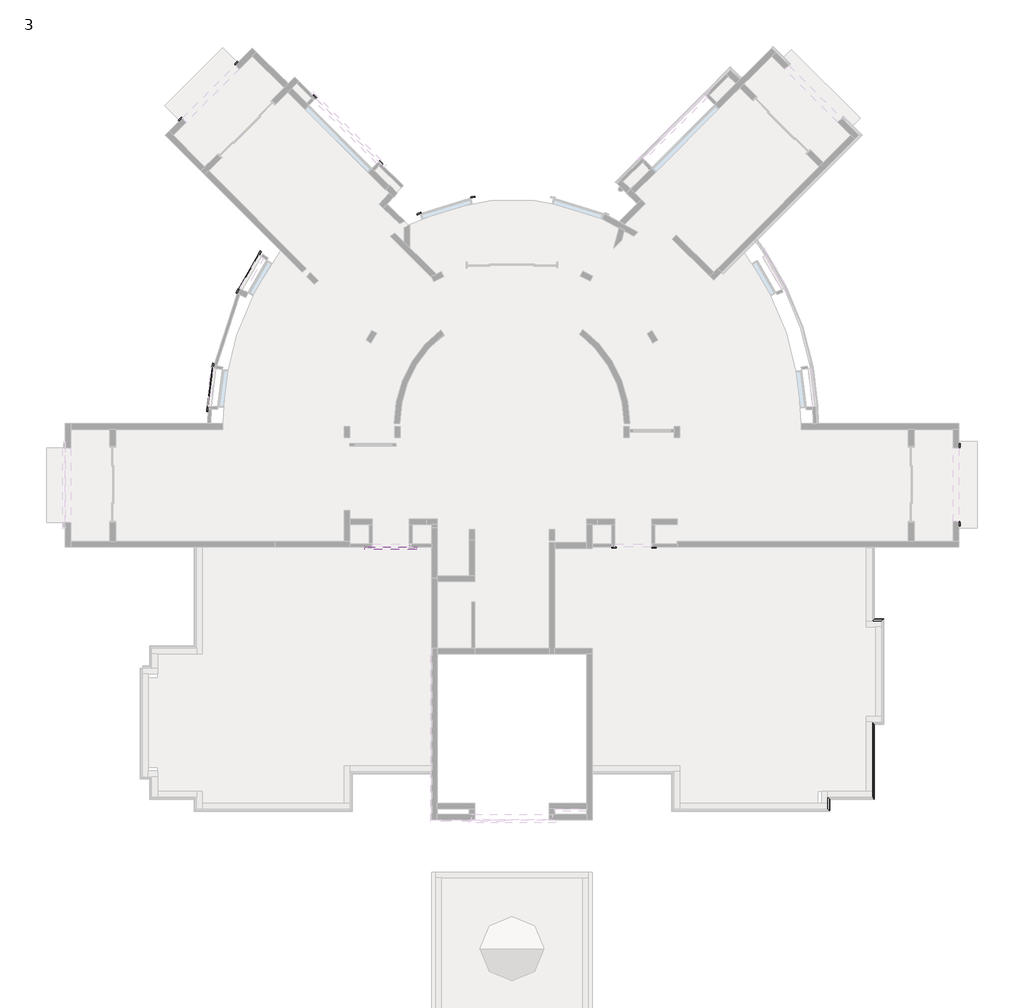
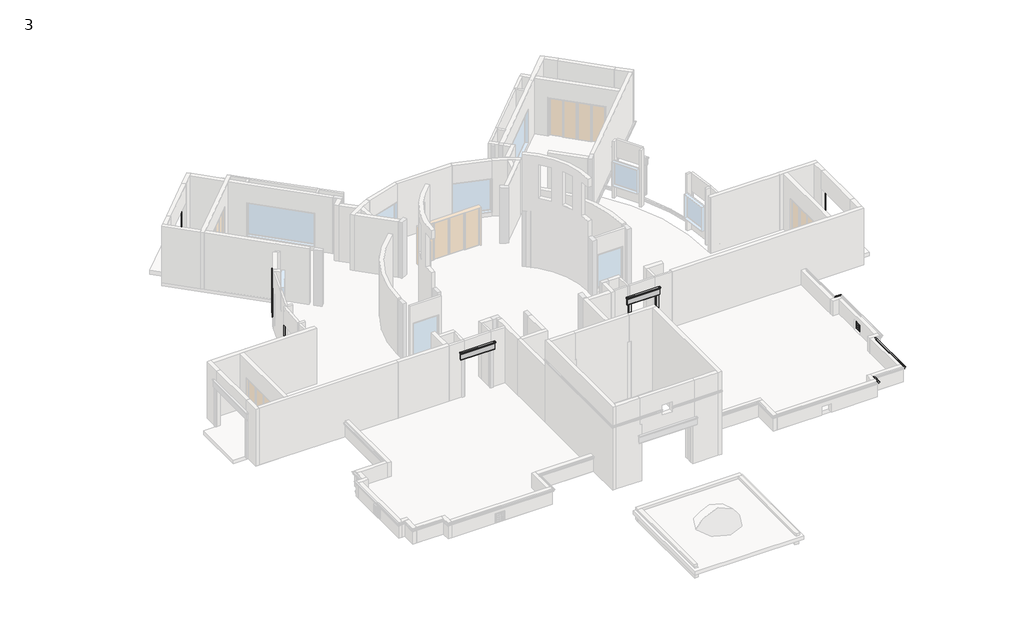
# One storey, part 9 of 12: 21 proxies.
"""IFC4 building model written with IfcOpenShell, lengths in millimetres."""

from ifc_helpers import new_model, si_unit, frame, origin, place, context, project, spatial, polyline, circle_curve, ellipse_curve, outline, extrude, transform, mapped, element, save
from ifc_brep_helpers import plane_surface, cylinder_surface, revolved_surface, advanced_brep
from components import generic_models_3ce4d895

model = new_model("IFC4")

# Units and contexts
model_context = context("Model", 3, world=origin())
ifc_project = project(units=[si_unit("LENGTHUNIT", "METRE", prefix="MILLI")], contexts=[model_context])

# Site, building, storey
site = spatial("IfcSite", under=ifc_project)
building = spatial("IfcBuilding", under=site)
storey = spatial("IfcBuildingStorey", under=building, Name="3", Elevation=3581.4)

# Proxies
placement = place(None, origin())
generic_models_shape = generic_models_3ce4d895(model_context)
element("IfcBuildingElementProxy", 1, Name="stone jhali : stone jhali", ObjectType="stone jhali : stone jhali", at=placement, inside=storey, context=model_context, shape_type="MappedRepresentation", body=[
    mapped(generic_models_shape, transform((6583.6550044, -9655.9181763, 3937.0), x_axis=(0.0, 1.0, 0.0), y_axis=(-1.0, 0.0, 0.0), z_axis=(0.0, 0.0, 1.0))),
])
element("IfcBuildingElementProxy", 2, Name="Cornice", ObjectType="Cornice", at=placement, inside=storey, context=model_context, shape_type="SweptSolid", body=[
    extrude(outline(polyline([(9861.3049094, -273.5693311), (9912.1049094, -273.5693311), (9912.1049094, -425.9693311), (9899.4049094, -425.9693311), (9899.4049094, -457.7193311), (9861.3049094, -457.7193311), (9861.3049094, -273.5693311)])), frame((0.0, 0.0, 3581.4), z_axis=(0.0, 0.0, 1.0), x_axis=(1.0, 0.0, 0.0)), (0.0, 0.0, 1.0), 2438.4),
])
element("IfcBuildingElementProxy", 3, Name="Cornice", ObjectType="Cornice", at=placement, inside=storey, context=model_context, shape_type="SweptSolid", body=[
    extrude(outline(polyline([(9861.3049094, -3651.7693311), (9861.3049094, -3467.6193311), (9899.4049094, -3467.6193311), (9899.4049094, -3499.3693311), (9912.1049094, -3499.3693311), (9912.1049094, -3651.7693311), (9861.3049094, -3651.7693311)])), frame((0.0, 0.0, 3581.4), z_axis=(0.0, 0.0, 1.0), x_axis=(1.0, 0.0, 0.0)), (0.0, 0.0, 1.0), 2447.8),
])
element("IfcBuildingElementProxy", 4, Name="Cornice", ObjectType="Cornice", at=placement, inside=storey, context=model_context, shape_type="SweptSolid", body=[
    extrude(outline(polyline([(-19565.0047027, 15310.3729855), (-19695.2184164, 15180.1592717), (-19722.1591848, 15207.1000401), (-19699.7085445, 15229.5506804), (-19708.6888006, 15238.5309365), (-19600.9257271, 15346.29401), (-19565.0047027, 15310.3729855)])), frame((0.0, 0.0, 3581.4), z_axis=(0.0, 0.0, 1.0), x_axis=(1.0, 0.0, 0.0)), (0.0, 0.0, 1.0), 2438.4),
])
element("IfcBuildingElementProxy", 5, Name="Cornice", ObjectType="Cornice", at=placement, inside=storey, context=model_context, shape_type="SweptSolid", body=[
    extrude(outline(polyline([(-21980.6935992, 12894.6840889), (-22016.6146237, 12930.6051134), (-21908.8515503, 13038.3681869), (-21899.8712941, 13029.3879307), (-21877.4206538, 13051.8385711), (-21850.4798855, 13024.8978027), (-21980.6935992, 12894.6840889)])), frame((0.0, 0.0, 3581.4), z_axis=(0.0, 0.0, 1.0), x_axis=(1.0, 0.0, 0.0)), (0.0, 0.0, 1.0), 2438.4),
])
element("IfcBuildingElementProxy", 6, Name="Cornice", ObjectType="Cornice", at=placement, inside=storey, context=model_context, shape_type="SweptSolid", body=[
    extrude(outline(polyline([(-16395.9597018, 13818.664308), (-16526.1734156, 13948.8780218), (-16499.2326472, 13975.8187901), (-16476.7820069, 13953.3681498), (-16467.8017508, 13962.3484059), (-16360.0386774, 13854.5853325), (-16395.9597018, 13818.664308)])), frame((0.0, 0.0, 3860.8), z_axis=(0.0, 0.0, 1.0), x_axis=(1.0, 0.0, 0.0)), (0.0, 0.0, 1.0), 2159.0),
])
element("IfcBuildingElementProxy", 7, Name="Cornice", ObjectType="Cornice", at=placement, inside=storey, context=model_context, shape_type="SweptSolid", body=[
    extrude(outline(polyline([(-13822.1309132, 11246.8070907), (-13786.2098888, 11282.7281152), (-13678.4468153, 11174.9650418), (-13687.4270714, 11165.9847856), (-13664.9764311, 11143.5341453), (-13691.9171995, 11116.593377), (-13822.1309132, 11246.8070907)])), frame((0.0, 0.0, 3835.4), z_axis=(0.0, 0.0, 1.0), x_axis=(1.0, 0.0, 0.0)), (0.0, 0.0, 1.0), 2184.4),
])
element("IfcBuildingElementProxy", 8, Name="Cornice", ObjectType="Cornice", at=placement, inside=storey, context=model_context, shape_type="SweptSolid", body=[
    extrude(outline(polyline([(-18625.2422279, 7572.7954932), (-18727.2981567, 7419.5120633), (-18759.0119698, 7440.6270831), (-18741.41612, 7467.0552606), (-18751.9873911, 7474.0936005), (-18667.527312, 7600.9488529), (-18625.2422279, 7572.7954932)])), frame((0.0, 0.0, 4495.8), z_axis=(0.0, 0.0, 1.0), x_axis=(1.0, 0.0, 0.0)), (0.0, 0.0, 1.0), 1524.0),
])
element("IfcBuildingElementProxy", 9, Name="Cornice", ObjectType="Cornice", at=placement, inside=storey, context=model_context, shape_type="SweptSolid", body=[
    extrude(outline(polyline([(-20564.0189962, 2998.5891327), (-20597.8457618, 2817.572635), (-20635.297451, 2824.5712761), (-20629.46525, 2855.7810171), (-20641.9491464, 2858.1138975), (-20613.9545818, 3007.9206542), (-20564.0189962, 2998.5891327)])), frame((0.0, 0.0, 4476.75), z_axis=(0.0, 0.0, 1.0), x_axis=(1.0, 0.0, 0.0)), (0.0, 0.0, 1.0), 1543.05),
])
element("IfcBuildingElementProxy", 10, Name="Cornice", ObjectType="Cornice", at=placement, inside=storey, context=model_context, shape_type="SweptSolid", body=[
    extrude(outline(polyline([(-20790.8754995, 1235.0551343), (-20798.5116903, 1051.0635283), (-20836.5789192, 1052.6434298), (-20835.2623345, 1084.3661205), (-20847.9514108, 1084.8927544), (-20841.6318046, 1237.1616697), (-20790.8754995, 1235.0551343)])), frame((0.0, 0.0, 4476.75), z_axis=(0.0, 0.0, 1.0), x_axis=(1.0, 0.0, 0.0)), (0.0, 0.0, 1.0), 1543.05),
])
element("IfcBuildingElementProxy", 11, Name="Cornice", ObjectType="Cornice", at=placement, inside=storey, context=model_context, shape_type="AdvancedBrep", body=[
    advanced_brep(
    [(-19615.2841774, 5849.4661485, 4311.65), (-19615.2841774, 5849.4661485, 4495.8), (-19649.721874, 5865.7650765, 4495.8), (-19649.721874, 5865.7650765, 4464.05), (-19661.2011062, 5871.1980525, 4464.05), (-19661.2011062, 5871.1980525, 4311.65), (-18638.8972495, 7550.4728354, 4311.65), (-18680.8207757, 7579.1618219, 4311.65), (-18680.8207757, 7579.1618219, 4464.05), (-18670.3398942, 7571.9895753, 4464.05), (-18670.3398942, 7571.9895753, 4495.8), (-18638.8972495, 7550.4728354, 4495.8)],
    [
        (0, 1),
        (1, 2),
        (2, 3),
        (3, 4),
        (4, 5),
        (5, 0),
        (6, 7),
        (7, 8),
        (8, 9),
        (9, 10),
        (10, 11),
        (11, 6),
        (11, 1, circle_curve(frame((-8388.5950904, 536.015621, 4495.8), z_axis=(0.0, 0.0, 1.0), x_axis=(-0.9038765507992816, 0.42779338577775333, 0.0)), 12420.6000002)),
        (0, 6, circle_curve(frame((-8388.5950904, 536.015621, 4311.65), z_axis=(0.0, 0.0, -1.0), x_axis=(-0.9038765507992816, 0.42779338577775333, 0.0)), 12420.6000002)),
        (10, 2, circle_curve(frame((-8388.5950904, 536.015621, 4495.8), z_axis=(0.0, 0.0, 1.0), x_axis=(-0.9038765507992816, 0.42779338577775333, 0.0)), 12458.7000002)),
        (9, 3, circle_curve(frame((-8388.5950904, 536.015621, 4464.05), z_axis=(0.0, 0.0, 1.0), x_axis=(-0.9038765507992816, 0.42779338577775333, 0.0)), 12458.7000002)),
        (8, 4, circle_curve(frame((-8388.5950904, 536.015621, 4464.05), z_axis=(0.0, 0.0, 1.0), x_axis=(-0.9038765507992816, 0.42779338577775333, 0.0)), 12471.4000002)),
        (7, 5, circle_curve(frame((-8388.5950904, 536.015621, 4311.65), z_axis=(0.0, 0.0, 1.0), x_axis=(-0.9038765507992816, 0.42779338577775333, 0.0)), 12471.4000002)),
    ],
    [
        plane_surface(frame((-8388.5950904, 536.015621, 4495.8), z_axis=(-0.42779338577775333, -0.9038765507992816, 0.0), x_axis=(-0.9038765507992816, 0.42779338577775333, 0.0))),
        plane_surface(frame((-8388.5950904, 536.015621, 4495.8), z_axis=(0.5647438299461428, 0.8252662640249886, 0.0), x_axis=(-0.8252662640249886, 0.5647438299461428, 0.0))),
        revolved_surface(polyline([(-19615.284177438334, 5849.466148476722, 4311.65), (-19615.284177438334, 5849.466148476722, 4495.8)]), (-8388.5950904, 536.015621, 4495.8), (0.0, 0.0, -1.0)),
        plane_surface(frame((-8388.5950904, 536.015621, 4495.8), z_axis=(0.0, 0.0, 1.0), x_axis=(-0.9038765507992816, 0.42779338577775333, 0.0))),
        cylinder_surface(frame((-8388.5950904, 536.015621, 4495.8), z_axis=(0.0, 0.0, -1.0), x_axis=(-0.9038765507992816, 0.42779338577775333, 0.0)), 12458.7000002),
        plane_surface(frame((-8388.5950904, 536.015621, 4464.05), z_axis=(0.0, 0.0, 1.0), x_axis=(-0.9038765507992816, 0.42779338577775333, 0.0))),
        cylinder_surface(frame((-8388.5950904, 536.015621, 4495.8), z_axis=(0.0, 0.0, -1.0), x_axis=(-0.9038765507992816, 0.42779338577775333, 0.0)), 12471.4000002),
        plane_surface(frame((-8388.5950904, 536.015621, 4311.65), z_axis=(0.0, 0.0, -1.0), x_axis=(-0.9038765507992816, 0.42779338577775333, 0.0))),
    ],
    [
        (0, [[1, 2, 3, 4, 5, 6]]),
        (1, [[7, 8, 9, 10, 11, 12]]),
        (2, [[13, -1, 14, -12]]),
        (3, [[15, -2, -13, -11]]),
        (4, [[16, -3, -15, -10]]),
        (5, [[17, -4, -16, -9]]),
        (6, [[18, -5, -17, -8]]),
        (7, [[-14, -6, -18, -7]]),
    ],
),
])
element("IfcBuildingElementProxy", 12, Name="Cornice", ObjectType="Cornice", at=placement, inside=storey, context=model_context, shape_type="SweptSolid", body=[
    extrude(outline(polyline([(-9892.3468074, 9786.7203377), (-10073.4973311, 9753.6188232), (-10080.3459203, 9791.0982419), (-10049.1130714, 9796.8053996), (-10051.3959344, 9809.2985391), (-9901.4782597, 9836.692896), (-9892.3468074, 9786.7203377)])), frame((0.0, 0.0, 3733.8), z_axis=(0.0, 0.0, 1.0), x_axis=(1.0, 0.0, 0.0)), (0.0, 0.0, 1.0), 2286.0),
])
element("IfcBuildingElementProxy", 13, Name="Cornice", ObjectType="Cornice", at=placement, inside=storey, context=model_context, shape_type="SweptSolid", body=[
    extrude(outline(polyline([(-12093.7697079, 9144.8565022), (-12261.4644605, 9068.7664736), (-12277.2072251, 9103.4619397), (-12248.2943367, 9116.5809101), (-12253.5419249, 9128.1460655), (-12114.7600606, 9191.1171236), (-12093.7697079, 9144.8565022)])), frame((0.0, 0.0, 3733.8), z_axis=(0.0, 0.0, 1.0), x_axis=(1.0, 0.0, 0.0)), (0.0, 0.0, 1.0), 2260.6),
])
element("IfcBuildingElementProxy", 14, Name="Cornice", ObjectType="Cornice", at=placement, inside=storey, context=model_context, shape_type="SweptSolid", body=[
    extrude(outline(polyline([(-19537.0846517, 6014.7377429), (-19615.8452259, 5848.2805579), (-19650.2846435, 5864.5758491), (-19636.7052342, 5893.2753637), (-19648.18504, 5898.7071275), (-19583.0038752, 6036.4647978), (-19537.0846517, 6014.7377429)])), frame((0.0, 0.0, 4495.8), z_axis=(0.0, 0.0, 1.0), x_axis=(1.0, 0.0, 0.0)), (0.0, 0.0, 1.0), 1524.0),
])
element("IfcBuildingElementProxy", 15, Name="Cornice", ObjectType="Cornice", at=placement, inside=storey, context=model_context, shape_type="SweptSolid", body=[
    extrude(outline(polyline([(-2489.4450906, -4496.3193311), (-2489.4450906, -4547.1193311), (-2641.8450906, -4547.1193311), (-2641.8450906, -4534.4193311), (-2673.5950906, -4534.4193311), (-2673.5950906, -4496.3193311), (-2489.4450906, -4496.3193311)])), frame((0.0, 0.0, 3581.4), z_axis=(0.0, 0.0, 1.0), x_axis=(1.0, 0.0, 0.0)), (0.0, 0.0, 1.0), 2438.4),
])
element("IfcBuildingElementProxy", 16, Name="Cornice", ObjectType="Cornice", at=placement, inside=storey, context=model_context, shape_type="SweptSolid", body=[
    extrude(outline(polyline([(-4127.7450906, -4496.3193311), (-4127.7450906, -4547.1193311), (-4280.1450906, -4547.1193311), (-4280.1450906, -4534.4193311), (-4311.8950906, -4534.4193311), (-4311.8950906, -4496.3193311), (-4127.7450906, -4496.3193311)])), frame((0.0, 0.0, 3581.4), z_axis=(0.0, 0.0, 1.0), x_axis=(1.0, 0.0, 0.0)), (0.0, 0.0, 1.0), 2438.4),
])
element("IfcBuildingElementProxy", 17, Name="Cornice", ObjectType="Cornice", at=placement, inside=storey, context=model_context, shape_type="AdvancedBrep", body=[
    advanced_brep(
    [(-20799.0856878, 1037.0420642, 4476.75), (-20849.8443405, 1039.0912521, 4476.75), (-20849.8443405, 1039.0912521, 4324.35), (-20837.1546773, 1038.5789551, 4324.35), (-20837.1546773, 1038.5789551, 4292.6), (-20799.0856878, 1037.0420642, 4292.6), (-20564.1492469, 2991.0482778, 4476.75), (-20564.1492469, 2991.0482778, 4292.6), (-20601.4975726, 2998.5790529, 4292.6), (-20601.4975726, 2998.5790529, 4324.35), (-20613.9470144, 3001.0893112, 4324.35), (-20613.9470144, 3001.0893112, 4476.75)],
    [
        (0, 1),
        (1, 2),
        (2, 3),
        (3, 4),
        (4, 5),
        (5, 0),
        (6, 7),
        (7, 8),
        (8, 9),
        (9, 10),
        (10, 11),
        (11, 6),
        (11, 1, circle_curve(frame((-8388.5950905, 536.0156211, 4476.75), z_axis=(0.0, 0.0, 1.0), x_axis=(-0.9991860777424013, 0.040338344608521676, 0.0)), 12471.4000001)),
        (0, 6, circle_curve(frame((-8388.5950905, 536.0156211, 4476.75), z_axis=(0.0, 0.0, -1.0), x_axis=(-0.9991860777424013, 0.040338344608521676, 0.0)), 12420.6000001)),
        (10, 2, circle_curve(frame((-8388.5950905, 536.0156211, 4324.35), z_axis=(0.0, 0.0, 1.0), x_axis=(-0.9991860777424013, 0.040338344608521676, 0.0)), 12471.4000001)),
        (9, 3, circle_curve(frame((-8388.5950905, 536.0156211, 4324.35), z_axis=(0.0, 0.0, 1.0), x_axis=(-0.9991860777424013, 0.040338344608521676, 0.0)), 12458.7000001)),
        (8, 4, circle_curve(frame((-8388.5950905, 536.0156211, 4292.6), z_axis=(0.0, 0.0, 1.0), x_axis=(-0.9991860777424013, 0.040338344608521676, 0.0)), 12458.7000001)),
        (7, 5, circle_curve(frame((-8388.5950905, 536.0156211, 4292.6), z_axis=(0.0, 0.0, 1.0), x_axis=(-0.9991860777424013, 0.040338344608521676, 0.0)), 12420.6000001)),
    ],
    [
        plane_surface(frame((-8388.5950905, 536.0156211, 4292.6), z_axis=(-0.04033834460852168, -0.9991860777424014, 0.0), x_axis=(-0.9991860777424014, 0.04033834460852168, 0.0))),
        plane_surface(frame((-8388.5950905, 536.0156211, 4292.6), z_axis=(0.19765813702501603, 0.9802710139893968, 0.0), x_axis=(-0.9802710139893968, 0.19765813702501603, 0.0))),
        plane_surface(frame((-8388.5950905, 536.0156211, 4476.75), z_axis=(0.0, 0.0, 1.0000000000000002), x_axis=(-0.9991860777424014, 0.04033834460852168, 0.0))),
        cylinder_surface(frame((-8388.5950905, 536.0156211, 4292.6), z_axis=(0.0, 0.0, -1.0), x_axis=(-0.9991860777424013, 0.040338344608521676, 0.0)), 12471.4000001),
        plane_surface(frame((-8388.5950905, 536.0156211, 4324.35), z_axis=(0.0, 0.0, -1.0000000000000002), x_axis=(-0.9991860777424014, 0.04033834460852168, 0.0))),
        cylinder_surface(frame((-8388.5950905, 536.0156211, 4292.6), z_axis=(0.0, 0.0, -1.0), x_axis=(-0.9991860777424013, 0.040338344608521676, 0.0)), 12458.7000001),
        plane_surface(frame((-8388.5950905, 536.0156211, 4292.6), z_axis=(0.0, 0.0, -1.0000000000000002), x_axis=(-0.9991860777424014, 0.04033834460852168, 0.0))),
        revolved_surface(polyline([(-20799.085687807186, 1037.042064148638, 4292.6), (-20799.085687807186, 1037.042064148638, 4476.75)]), (-8388.5950905, 536.0156211, 4292.6), (0.0, 0.0, -1.0)),
    ],
    [
        (0, [[1, 2, 3, 4, 5, 6]]),
        (1, [[7, 8, 9, 10, 11, 12]]),
        (2, [[13, -1, 14, -12]]),
        (3, [[15, -2, -13, -11]]),
        (4, [[16, -3, -15, -10]]),
        (5, [[17, -4, -16, -9]]),
        (6, [[18, -5, -17, -8]]),
        (7, [[-14, -6, -18, -7]]),
    ],
),
])
element("IfcBuildingElementProxy", 18, Name="Cornice 2", ObjectType="Cornice 2", at=placement, inside=storey, context=model_context, shape_type="AdvancedBrep", body=[
    advanced_brep(
    [(-14395.6950906, -4496.3193311, 6515.1), (-14287.7450906, -4496.3193311, 6515.1), (-14287.7450906, -4496.3193311, 6019.8), (-14348.4382339, -4496.3193311, 6019.8), (-14348.4382339, -4496.3193311, 6064.25), (-14361.1382339, -4496.3193311, 6064.25), (-14361.1382339, -4496.3193311, 6419.85), (-14376.6450906, -4496.3193311, 6419.85), (-14376.6450906, -4496.3193311, 6438.9), (-14376.6450906, -4496.3193311, 6489.7), (-14395.6950906, -4496.3193311, 6489.7), (-14395.6950906, -4604.2693311, 6515.1), (-14348.4382339, -4557.0124745, 6019.8), (-14348.4382339, -4557.0124745, 6064.25), (-14361.1382339, -4569.7124745, 6064.25), (-14361.1382339, -4569.7124745, 6419.85), (-14376.6450906, -4585.2193311, 6419.85), (-14376.6450906, -4585.2193311, 6438.9), (-14376.6450906, -4585.2193311, 6489.7), (-14395.6950906, -4604.2693311, 6489.7), (-12287.4950906, -4604.2693311, 6515.1), (-12395.4450906, -4496.3193311, 6515.1), (-12395.4450906, -4496.3193311, 6019.8), (-12334.7519472, -4557.0124745, 6019.8), (-12334.7519472, -4557.0124745, 6064.25), (-12322.0519472, -4569.7124745, 6064.25), (-12322.0519472, -4569.7124745, 6419.85), (-12306.5450906, -4585.2193311, 6419.85), (-12306.5450906, -4585.2193311, 6438.9), (-12306.5450906, -4585.2193311, 6489.7), (-12287.4950906, -4604.2693311, 6489.7), (-12287.4950906, -4496.3193311, 6515.1), (-12287.4950906, -4496.3193311, 6489.7), (-12306.5450906, -4496.3193311, 6489.7), (-12306.5450906, -4496.3193311, 6438.9), (-12306.5450906, -4496.3193311, 6419.85), (-12322.0519472, -4496.3193311, 6419.85), (-12322.0519472, -4496.3193311, 6064.25), (-12334.7519472, -4496.3193311, 6064.25), (-12334.7519472, -4496.3193311, 6019.8)],
    [
        (0, 1),
        (1, 2),
        (2, 3),
        (3, 4),
        (4, 5),
        (5, 6),
        (6, 7),
        (7, 8),
        (8, 9, circle_curve(frame((-14364.2171494, -4496.3193311, 6464.3), z_axis=(0.0, 1.0, 0.0), x_axis=(-1.0, 0.0, 0.0)), 28.2774419)),
        (9, 10),
        (10, 0),
        (0, 11),
        (11, 1),
        (2, 12),
        (12, 3),
        (12, 13),
        (13, 4),
        (13, 14),
        (14, 5),
        (14, 15),
        (15, 6),
        (15, 16),
        (16, 7),
        (16, 17),
        (17, 8),
        (17, 18, ellipse_curve(frame((-14364.2171494, -4572.79139, 6464.3), z_axis=(-0.7071067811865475, 0.7071067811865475, 0.0), x_axis=(0.7071067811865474, 0.7071067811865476, 0.0)), 39.9903419, 28.2774419)),
        (18, 9),
        (18, 19),
        (19, 10),
        (19, 11),
        (11, 20),
        (20, 21),
        (21, 1),
        (21, 22),
        (22, 2),
        (22, 23),
        (23, 12),
        (23, 24),
        (24, 13),
        (24, 25),
        (25, 14),
        (25, 26),
        (26, 15),
        (26, 27),
        (27, 16),
        (27, 28),
        (28, 17),
        (28, 29, ellipse_curve(frame((-12318.9730317, -4572.79139, 6464.3), z_axis=(-0.7071067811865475, -0.7071067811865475, 0.0), x_axis=(-0.7071067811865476, 0.7071067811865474, 0.0)), 39.9903419, 28.2774419)),
        (29, 18),
        (29, 30),
        (30, 19),
        (30, 20),
        (31, 32),
        (32, 33),
        (33, 34, circle_curve(frame((-12318.9730317, -4496.3193311, 6464.3), z_axis=(0.0, 1.0, 0.0), x_axis=(1.0, 0.0, 0.0)), 28.2774419)),
        (34, 35),
        (35, 36),
        (36, 37),
        (37, 38),
        (38, 39),
        (39, 22),
        (21, 31),
        (20, 31),
        (39, 23),
        (38, 24),
        (37, 25),
        (36, 26),
        (35, 27),
        (34, 28),
        (33, 29),
        (32, 30),
    ],
    [
        plane_surface(frame((-14103.5950906, -4496.3193311, 6019.8), z_axis=(0.0, 1.0, 0.0), x_axis=(1.0, 0.0, 0.0))),
        plane_surface(frame((-14395.6950906, -4496.3193311, 6515.1), z_axis=(0.0, 0.0, 1.0), x_axis=(0.0, -1.0, 0.0))),
        plane_surface(frame((-14287.7450906, -4496.3193311, 6019.8), z_axis=(0.0, 0.0, -1.0), x_axis=(0.0, -1.0, 0.0))),
        plane_surface(frame((-14348.4382339, -4496.3193311, 6019.8), z_axis=(-1.0, 0.0, 0.0), x_axis=(0.0, -1.0, 0.0))),
        plane_surface(frame((-14348.4382339, -4496.3193311, 6064.25), z_axis=(0.0, 0.0, -1.0), x_axis=(0.0, -1.0, 0.0))),
        plane_surface(frame((-14361.1382339, -4496.3193311, 6064.25), z_axis=(-1.0, 0.0, 0.0), x_axis=(0.0, -1.0, 0.0))),
        plane_surface(frame((-14361.1382339, -4496.3193311, 6419.85), z_axis=(0.0, 0.0, -1.0), x_axis=(0.0, -1.0, 0.0))),
        plane_surface(frame((-14376.6450906, -4496.3193311, 6419.85), z_axis=(-1.0, 0.0, 0.0), x_axis=(0.0, -1.0, 0.0))),
        cylinder_surface(frame((-14364.2171494, -4496.3193311, 6464.3), z_axis=(0.0, 1.0, 0.0), x_axis=(-1.0, 0.0, 0.0)), 28.2774419),
        plane_surface(frame((-14376.6450906, -4496.3193311, 6489.7), z_axis=(0.0, 0.0, -1.0), x_axis=(0.0, -1.0, 0.0))),
        plane_surface(frame((-14395.6950906, -4496.3193311, 6489.7), z_axis=(-1.0, 0.0, 0.0), x_axis=(0.0, -1.0, 0.0))),
        plane_surface(frame((-14395.6950906, -4604.2693311, 6515.1), z_axis=(0.0, 0.0, 1.0), x_axis=(1.0, 0.0, 0.0))),
        plane_surface(frame((-14287.7450906, -4496.3193311, 6515.1), z_axis=(0.0, 1.0, 0.0), x_axis=(1.0, 0.0, 0.0))),
        plane_surface(frame((-14287.7450906, -4496.3193311, 6019.8), z_axis=(0.0, 0.0, -1.0), x_axis=(1.0, 0.0, 0.0))),
        plane_surface(frame((-14348.4382339, -4557.0124745, 6019.8), z_axis=(0.0, -1.0, 0.0), x_axis=(1.0, 0.0, 0.0))),
        plane_surface(frame((-14348.4382339, -4557.0124745, 6064.25), z_axis=(0.0, 0.0, -1.0), x_axis=(1.0, 0.0, 0.0))),
        plane_surface(frame((-14361.1382339, -4569.7124745, 6064.25), z_axis=(0.0, -1.0, 0.0), x_axis=(1.0, 0.0, 0.0))),
        plane_surface(frame((-14361.1382339, -4569.7124745, 6419.85), z_axis=(0.0, 0.0, -1.0), x_axis=(1.0, 0.0, 0.0))),
        plane_surface(frame((-14376.6450906, -4585.2193311, 6419.85), z_axis=(0.0, -1.0, 0.0), x_axis=(1.0, 0.0, 0.0))),
        cylinder_surface(frame((-14287.7450906, -4572.79139, 6464.3), z_axis=(-1.0, 0.0, 0.0), x_axis=(0.0, -1.0, 0.0)), 28.2774419),
        plane_surface(frame((-14376.6450906, -4585.2193311, 6489.7), z_axis=(0.0, 0.0, -1.0), x_axis=(1.0, 0.0, 0.0))),
        plane_surface(frame((-14395.6950906, -4604.2693311, 6489.7), z_axis=(0.0, -1.0, 0.0), x_axis=(1.0, 0.0, 0.0))),
        plane_surface(frame((-12287.4950906, -4604.2693311, 6515.1), z_axis=(0.0, 0.0, 1.0), x_axis=(0.0, 1.0, 0.0))),
        plane_surface(frame((-12395.4450906, -4496.3193311, 6019.8), z_axis=(0.0, 0.0, -1.0), x_axis=(0.0, 1.0, 0.0))),
        plane_surface(frame((-12334.7519472, -4557.0124745, 6019.8), z_axis=(1.0, 0.0, 0.0), x_axis=(0.0, 1.0, 0.0))),
        plane_surface(frame((-12334.7519472, -4557.0124745, 6064.25), z_axis=(0.0, 0.0, -1.0), x_axis=(0.0, 1.0, 0.0))),
        plane_surface(frame((-12322.0519472, -4569.7124745, 6064.25), z_axis=(1.0, 0.0, 0.0), x_axis=(0.0, 1.0, 0.0))),
        plane_surface(frame((-12322.0519472, -4569.7124745, 6419.85), z_axis=(0.0, 0.0, -1.0), x_axis=(0.0, 1.0, 0.0))),
        plane_surface(frame((-12306.5450906, -4585.2193311, 6419.85), z_axis=(1.0, 0.0, 0.0), x_axis=(0.0, 1.0, 0.0))),
        cylinder_surface(frame((-12318.9730317, -4496.3193311, 6464.3), z_axis=(0.0, -1.0, 0.0), x_axis=(1.0, 0.0, 0.0)), 28.2774419),
        plane_surface(frame((-12306.5450906, -4585.2193311, 6489.7), z_axis=(0.0, 0.0, -1.0), x_axis=(0.0, 1.0, 0.0))),
        plane_surface(frame((-12287.4950906, -4604.2693311, 6489.7), z_axis=(1.0, 0.0, 0.0), x_axis=(0.0, 1.0, 0.0))),
    ],
    [
        (0, [[1, 2, 3, 4, 5, 6, 7, 8, 9, 10, 11]]),
        (1, [[-1, 12, 13]]),
        (2, [[-3, 14, 15]]),
        (3, [[-4, -15, 16, 17]]),
        (4, [[-5, -17, 18, 19]]),
        (5, [[-6, -19, 20, 21]]),
        (6, [[-7, -21, 22, 23]]),
        (7, [[-8, -23, 24, 25]]),
        (8, [[-9, -25, 26, 27]]),
        (9, [[-10, -27, 28, 29]]),
        (10, [[-11, -29, 30, -12]]),
        (11, [[-13, 31, 32, 33]]),
        (12, [[-2, -33, 34, 35]]),
        (13, [[-14, -35, 36, 37]]),
        (14, [[-16, -37, 38, 39]]),
        (15, [[-18, -39, 40, 41]]),
        (16, [[-20, -41, 42, 43]]),
        (17, [[-22, -43, 44, 45]]),
        (18, [[-24, -45, 46, 47]]),
        (19, [[-26, -47, 48, 49]]),
        (20, [[-28, -49, 50, 51]]),
        (21, [[-30, -51, 52, -31]]),
        (0, [[53, 54, 55, 56, 57, 58, 59, 60, 61, -34, 62]]),
        (22, [[-32, 63, -62]]),
        (23, [[-36, -61, 64]]),
        (24, [[-38, -64, -60, 65]]),
        (25, [[-40, -65, -59, 66]]),
        (26, [[-42, -66, -58, 67]]),
        (27, [[-44, -67, -57, 68]]),
        (28, [[-46, -68, -56, 69]]),
        (29, [[-48, -69, -55, 70]]),
        (30, [[-50, -70, -54, 71]]),
        (31, [[-52, -71, -53, -63]]),
    ],
),
    advanced_brep(
    [(-4419.8450906, -4496.3193311, 6515.1), (-4311.8950906, -4496.3193311, 6515.1), (-4311.8950906, -4496.3193311, 6019.8), (-4372.5882339, -4496.3193311, 6019.8), (-4372.5882339, -4496.3193311, 6064.25), (-4385.2882339, -4496.3193311, 6064.25), (-4385.2882339, -4496.3193311, 6419.85), (-4400.7950906, -4496.3193311, 6419.85), (-4400.7950906, -4496.3193311, 6438.9), (-4400.7950906, -4496.3193311, 6489.7), (-4419.8450906, -4496.3193311, 6489.7), (-4419.8450906, -4604.2693311, 6515.1), (-4372.5882339, -4557.0124745, 6019.8), (-4372.5882339, -4557.0124745, 6064.25), (-4385.2882339, -4569.7124745, 6064.25), (-4385.2882339, -4569.7124745, 6419.85), (-4400.7950906, -4585.2193311, 6419.85), (-4400.7950906, -4585.2193311, 6438.9), (-4400.7950906, -4585.2193311, 6489.7), (-4419.8450906, -4604.2693311, 6489.7), (-2400.5450906, -4604.2693311, 6515.1), (-2508.4950906, -4496.3193311, 6515.1), (-2508.4950906, -4496.3193311, 6019.8), (-2447.8019472, -4557.0124745, 6019.8), (-2447.8019472, -4557.0124745, 6064.25), (-2435.1019472, -4569.7124745, 6064.25), (-2435.1019472, -4569.7124745, 6419.85), (-2419.5950906, -4585.2193311, 6419.85), (-2419.5950906, -4585.2193311, 6438.9), (-2419.5950906, -4585.2193311, 6489.7), (-2400.5450906, -4604.2693311, 6489.7), (-2400.5450906, -4496.3193311, 6515.1), (-2400.5450906, -4496.3193311, 6489.7), (-2419.5950906, -4496.3193311, 6489.7), (-2419.5950906, -4496.3193311, 6438.9), (-2419.5950906, -4496.3193311, 6419.85), (-2435.1019472, -4496.3193311, 6419.85), (-2435.1019472, -4496.3193311, 6064.25), (-2447.8019472, -4496.3193311, 6064.25), (-2447.8019472, -4496.3193311, 6019.8)],
    [
        (0, 1),
        (1, 2),
        (2, 3),
        (3, 4),
        (4, 5),
        (5, 6),
        (6, 7),
        (7, 8),
        (8, 9, circle_curve(frame((-4388.3671494, -4496.3193311, 6464.3), z_axis=(0.0, 1.0, 0.0), x_axis=(-1.0, 0.0, 0.0)), 28.2774419)),
        (9, 10),
        (10, 0),
        (0, 11),
        (11, 1),
        (2, 12),
        (12, 3),
        (12, 13),
        (13, 4),
        (13, 14),
        (14, 5),
        (14, 15),
        (15, 6),
        (15, 16),
        (16, 7),
        (16, 17),
        (17, 8),
        (17, 18, ellipse_curve(frame((-4388.3671494, -4572.79139, 6464.3), z_axis=(-0.7071067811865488, 0.7071067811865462, 0.0), x_axis=(0.7071067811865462, 0.7071067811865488, 0.0)), 39.9903419, 28.2774419)),
        (18, 9),
        (18, 19),
        (19, 10),
        (19, 11),
        (11, 20),
        (20, 21),
        (21, 1),
        (21, 22),
        (22, 2),
        (22, 23),
        (23, 12),
        (23, 24),
        (24, 13),
        (24, 25),
        (25, 14),
        (25, 26),
        (26, 15),
        (26, 27),
        (27, 16),
        (27, 28),
        (28, 17),
        (28, 29, ellipse_curve(frame((-2432.0230317, -4572.79139, 6464.3), z_axis=(-0.7071067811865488, -0.7071067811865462, 0.0), x_axis=(-0.7071067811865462, 0.7071067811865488, 0.0)), 39.9903419, 28.2774419)),
        (29, 18),
        (29, 30),
        (30, 19),
        (30, 20),
        (31, 32),
        (32, 33),
        (33, 34, circle_curve(frame((-2432.0230317, -4496.3193311, 6464.3), z_axis=(0.0, 1.0, 0.0), x_axis=(1.0, 0.0, 0.0)), 28.2774419)),
        (34, 35),
        (35, 36),
        (36, 37),
        (37, 38),
        (38, 39),
        (39, 22),
        (21, 31),
        (20, 31),
        (39, 23),
        (38, 24),
        (37, 25),
        (36, 26),
        (35, 27),
        (34, 28),
        (33, 29),
        (32, 30),
    ],
    [
        plane_surface(frame((-4197.5950906, -4496.3193311, 6019.8), z_axis=(0.0, 1.0, 0.0), x_axis=(1.0, 0.0, 0.0))),
        plane_surface(frame((-4419.8450906, -4496.3193311, 6515.1), z_axis=(0.0, 0.0, 1.0), x_axis=(0.0, -1.0, 0.0))),
        plane_surface(frame((-4311.8950906, -4496.3193311, 6019.8), z_axis=(0.0, 0.0, -1.0), x_axis=(0.0, -1.0, 0.0))),
        plane_surface(frame((-4372.5882339, -4496.3193311, 6019.8), z_axis=(-1.0, 0.0, 0.0), x_axis=(0.0, -1.0, 0.0))),
        plane_surface(frame((-4372.5882339, -4496.3193311, 6064.25), z_axis=(0.0, 0.0, -1.0), x_axis=(0.0, -1.0, 0.0))),
        plane_surface(frame((-4385.2882339, -4496.3193311, 6064.25), z_axis=(-1.0, 0.0, 0.0), x_axis=(0.0, -1.0, 0.0))),
        plane_surface(frame((-4385.2882339, -4496.3193311, 6419.85), z_axis=(0.0, 0.0, -1.0), x_axis=(0.0, -1.0, 0.0))),
        plane_surface(frame((-4400.7950906, -4496.3193311, 6419.85), z_axis=(-1.0, 0.0, 0.0), x_axis=(0.0, -1.0, 0.0))),
        cylinder_surface(frame((-4388.3671494, -4496.3193311, 6464.3), z_axis=(0.0, 1.0, 0.0), x_axis=(-1.0, 0.0, 0.0)), 28.2774419),
        plane_surface(frame((-4400.7950906, -4496.3193311, 6489.7), z_axis=(0.0, 0.0, -1.0), x_axis=(0.0, -1.0, 0.0))),
        plane_surface(frame((-4419.8450906, -4496.3193311, 6489.7), z_axis=(-1.0, 0.0, 0.0), x_axis=(0.0, -1.0, 0.0))),
        plane_surface(frame((-4419.8450906, -4604.2693311, 6515.1), z_axis=(0.0, 0.0, 1.0), x_axis=(1.0, 0.0, 0.0))),
        plane_surface(frame((-4311.8950906, -4496.3193311, 6515.1), z_axis=(0.0, 1.0, 0.0), x_axis=(1.0, 0.0, 0.0))),
        plane_surface(frame((-4311.8950906, -4496.3193311, 6019.8), z_axis=(0.0, 0.0, -1.0), x_axis=(1.0, 0.0, 0.0))),
        plane_surface(frame((-4372.5882339, -4557.0124745, 6019.8), z_axis=(0.0, -1.0, 0.0), x_axis=(1.0, 0.0, 0.0))),
        plane_surface(frame((-4372.5882339, -4557.0124745, 6064.25), z_axis=(0.0, 0.0, -1.0), x_axis=(1.0, 0.0, 0.0))),
        plane_surface(frame((-4385.2882339, -4569.7124745, 6064.25), z_axis=(0.0, -1.0, 0.0), x_axis=(1.0, 0.0, 0.0))),
        plane_surface(frame((-4385.2882339, -4569.7124745, 6419.85), z_axis=(0.0, 0.0, -1.0), x_axis=(1.0, 0.0, 0.0))),
        plane_surface(frame((-4400.7950906, -4585.2193311, 6419.85), z_axis=(0.0, -1.0, 0.0), x_axis=(1.0, 0.0, 0.0))),
        cylinder_surface(frame((-4311.8950906, -4572.79139, 6464.3), z_axis=(-1.0, 0.0, 0.0), x_axis=(0.0, -1.0, 0.0)), 28.2774419),
        plane_surface(frame((-4400.7950906, -4585.2193311, 6489.7), z_axis=(0.0, 0.0, -1.0), x_axis=(1.0, 0.0, 0.0))),
        plane_surface(frame((-4419.8450906, -4604.2693311, 6489.7), z_axis=(0.0, -1.0, 0.0), x_axis=(1.0, 0.0, 0.0))),
        plane_surface(frame((-2400.5450906, -4604.2693311, 6515.1), z_axis=(0.0, 0.0, 1.0), x_axis=(0.0, 1.0, 0.0))),
        plane_surface(frame((-2508.4950906, -4496.3193311, 6019.8), z_axis=(0.0, 0.0, -1.0), x_axis=(0.0, 1.0, 0.0))),
        plane_surface(frame((-2447.8019472, -4557.0124745, 6019.8), z_axis=(1.0, 0.0, 0.0), x_axis=(0.0, 1.0, 0.0))),
        plane_surface(frame((-2447.8019472, -4557.0124745, 6064.25), z_axis=(0.0, 0.0, -1.0), x_axis=(0.0, 1.0, 0.0))),
        plane_surface(frame((-2435.1019472, -4569.7124745, 6064.25), z_axis=(1.0, 0.0, 0.0), x_axis=(0.0, 1.0, 0.0))),
        plane_surface(frame((-2435.1019472, -4569.7124745, 6419.85), z_axis=(0.0, 0.0, -1.0), x_axis=(0.0, 1.0, 0.0))),
        plane_surface(frame((-2419.5950906, -4585.2193311, 6419.85), z_axis=(1.0, 0.0, 0.0), x_axis=(0.0, 1.0, 0.0))),
        cylinder_surface(frame((-2432.0230317, -4496.3193311, 6464.3), z_axis=(0.0, -1.0, 0.0), x_axis=(1.0, 0.0, 0.0)), 28.2774419),
        plane_surface(frame((-2419.5950906, -4585.2193311, 6489.7), z_axis=(0.0, 0.0, -1.0), x_axis=(0.0, 1.0, 0.0))),
        plane_surface(frame((-2400.5450906, -4604.2693311, 6489.7), z_axis=(1.0, 0.0, 0.0), x_axis=(0.0, 1.0, 0.0))),
    ],
    [
        (0, [[1, 2, 3, 4, 5, 6, 7, 8, 9, 10, 11]]),
        (1, [[-1, 12, 13]]),
        (2, [[-3, 14, 15]]),
        (3, [[-4, -15, 16, 17]]),
        (4, [[-5, -17, 18, 19]]),
        (5, [[-6, -19, 20, 21]]),
        (6, [[-7, -21, 22, 23]]),
        (7, [[-8, -23, 24, 25]]),
        (8, [[-9, -25, 26, 27]]),
        (9, [[-10, -27, 28, 29]]),
        (10, [[-11, -29, 30, -12]]),
        (11, [[-13, 31, 32, 33]]),
        (12, [[-2, -33, 34, 35]]),
        (13, [[-14, -35, 36, 37]]),
        (14, [[-16, -37, 38, 39]]),
        (15, [[-18, -39, 40, 41]]),
        (16, [[-20, -41, 42, 43]]),
        (17, [[-22, -43, 44, 45]]),
        (18, [[-24, -45, 46, 47]]),
        (19, [[-26, -47, 48, 49]]),
        (20, [[-28, -49, 50, 51]]),
        (21, [[-30, -51, 52, -31]]),
        (0, [[53, 54, 55, 56, 57, 58, 59, 60, 61, -34, 62]]),
        (22, [[-32, 63, -62]]),
        (23, [[-36, -61, 64]]),
        (24, [[-38, -64, -60, 65]]),
        (25, [[-40, -65, -59, 66]]),
        (26, [[-42, -66, -58, 67]]),
        (27, [[-44, -67, -57, 68]]),
        (28, [[-46, -68, -56, 69]]),
        (29, [[-48, -69, -55, 70]]),
        (30, [[-50, -70, -54, 71]]),
        (31, [[-52, -71, -53, -63]]),
    ],
),
])
element("IfcBuildingElementProxy", 19, Name="Cornice 3", ObjectType="Cornice 3", at=placement, inside=storey, context=model_context, shape_type="AdvancedBrep", body=[
    advanced_brep(
    [(6393.2878641, -14783.3193311, 4572.0), (6317.0878641, -14707.1193311, 4572.0), (6317.0878641, -14707.1193311, 4419.6), (6367.8878641, -14757.9193311, 4419.6), (6367.8878641, -14757.9193311, 4438.65), (6367.8878641, -14757.9193311, 4457.7), (6367.8878641, -14757.9193311, 4483.1), (6375.0316141, -14765.0630811, 4483.1), (6393.2878641, -14783.3193311, 4512.5009114), (6393.2878641, -14783.3193311, 4527.55), (6393.2878641, -11734.5181763, 4572.0), (6393.2878641, -11734.5181763, 4527.55), (6393.2878641, -11734.5181763, 4512.5009114), (6375.0316141, -11716.2619263, 4483.1), (6367.8878641, -11709.1181763, 4483.1), (6367.8878641, -11709.1181763, 4457.7), (6367.8878641, -11709.1181763, 4438.65), (6367.8878641, -11709.1181763, 4419.6), (6317.0878641, -11658.3181763, 4419.6), (6317.0878641, -11658.3181763, 4572.0)],
    [
        (0, 1),
        (1, 2),
        (2, 3),
        (3, 4),
        (4, 5, ellipse_curve(frame((6367.8878641, -14757.9193311, 4448.175), z_axis=(-0.7071067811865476, -0.7071067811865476, 0.0), x_axis=(0.7071067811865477, -0.7071067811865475, 0.0)), 13.4703842, 9.525)),
        (5, 6),
        (6, 7),
        (7, 8, ellipse_curve(frame((6396.5442626, -14786.5757296, 4490.1103895), z_axis=(0.7071067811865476, 0.7071067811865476, 0.0), x_axis=(-0.7071067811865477, 0.7071067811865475, 0.0)), 31.9981126, 22.6260824)),
        (8, 9),
        (9, 0, ellipse_curve(frame((6393.2878641, -14783.3193311, 4549.775), z_axis=(-0.7071067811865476, -0.7071067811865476, 0.0), x_axis=(0.7071067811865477, -0.7071067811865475, 0.0)), 31.4308964, 22.225)),
        (10, 11, ellipse_curve(frame((6393.2878641, -11734.5181763, 4549.775), z_axis=(0.7071067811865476, 0.7071067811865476, 0.0), x_axis=(0.7071067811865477, -0.7071067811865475, 0.0)), 31.4308964, 22.225)),
        (11, 12),
        (12, 13, ellipse_curve(frame((6396.5442626, -11737.7745748, 4490.1103895), z_axis=(-0.7071067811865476, -0.7071067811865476, 0.0), x_axis=(-0.7071067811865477, 0.7071067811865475, 0.0)), 31.9981126, 22.6260824)),
        (13, 14),
        (14, 15),
        (15, 16, ellipse_curve(frame((6367.8878641, -11709.1181763, 4448.175), z_axis=(0.7071067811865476, 0.7071067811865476, 0.0), x_axis=(0.7071067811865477, -0.7071067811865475, 0.0)), 13.4703842, 9.525)),
        (16, 17),
        (17, 18),
        (18, 19),
        (19, 10),
        (0, 10),
        (19, 1),
        (18, 2),
        (17, 3),
        (16, 4),
        (15, 5),
        (14, 6),
        (13, 7),
        (12, 8),
        (11, 9),
    ],
    [
        plane_surface(frame((6317.0878641, -14707.1193311, 4114.8), z_axis=(-0.7071067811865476, -0.7071067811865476, 0.0), x_axis=(-0.7071067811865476, 0.7071067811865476, 0.0))),
        plane_surface(frame((6317.0878641, -11658.3181763, 4724.4), z_axis=(0.7071067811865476, 0.7071067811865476, 0.0), x_axis=(0.7071067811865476, -0.7071067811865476, 0.0))),
        plane_surface(frame((6393.2878641, -14783.3193311, 4572.0), z_axis=(0.0, 0.0, 1.0), x_axis=(0.0, 1.0, 0.0))),
        plane_surface(frame((6317.0878641, -14707.1193311, 4572.0), z_axis=(-1.0, 0.0, 0.0), x_axis=(0.0, 1.0, 0.0))),
        plane_surface(frame((6317.0878641, -14707.1193311, 4419.6), z_axis=(0.0, 0.0, -1.0), x_axis=(0.0, 1.0, 0.0))),
        plane_surface(frame((6367.8878641, -14757.9193311, 4419.6), z_axis=(1.0, 0.0, 0.0), x_axis=(0.0, 1.0, 0.0))),
        cylinder_surface(frame((6367.8878641, -14707.1193311, 4448.175), z_axis=(0.0, -1.0, 0.0), x_axis=(-1.0, 0.0, 0.0)), 9.525),
        plane_surface(frame((6367.8878641, -14757.9193311, 4457.7), z_axis=(1.0, 0.0, 0.0), x_axis=(0.0, 1.0, 0.0))),
        plane_surface(frame((6367.8878641, -14757.9193311, 4483.1), z_axis=(0.0, 0.0, -1.0), x_axis=(0.0, 1.0, 0.0))),
        revolved_surface(polyline([(6373.9181802, -11715.148492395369, 4490.1103895), (6373.9181802, -14809.20181200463, 4490.1103895)]), (6396.5442626, -14707.1193311, 4490.1103895), (0.0, 1.0, 0.0)),
        plane_surface(frame((6393.2878641, -14783.3193311, 4512.5009114), z_axis=(1.0, 0.0, 0.0), x_axis=(0.0, 1.0, 0.0))),
        cylinder_surface(frame((6393.2878641, -14707.1193311, 4549.775), z_axis=(0.0, -1.0, 0.0), x_axis=(-1.0, 0.0, 0.0)), 22.225),
    ],
    [
        (0, [[1, 2, 3, 4, 5, 6, 7, 8, 9, 10]]),
        (1, [[11, 12, 13, 14, 15, 16, 17, 18, 19, 20]]),
        (2, [[-1, 21, -20, 22]]),
        (3, [[-2, -22, -19, 23]]),
        (4, [[-3, -23, -18, 24]]),
        (5, [[-4, -24, -17, 25]]),
        (6, [[-5, -25, -16, 26]]),
        (7, [[-6, -26, -15, 27]]),
        (8, [[-7, -27, -14, 28]]),
        (9, [[-8, -28, -13, 29]]),
        (10, [[-9, -29, -12, 30]]),
        (11, [[-10, -30, -11, -21]]),
    ],
),
])
element("IfcBuildingElementProxy", 20, Name="Cornice 3", ObjectType="Cornice 3", at=placement, inside=storey, context=model_context, shape_type="AdvancedBrep", body=[
    advanced_brep(
    [(4565.4049094, -15278.6193311, 4572.0), (4489.2049094, -15202.4193311, 4572.0), (4489.2049094, -15202.4193311, 4419.6), (4540.0049094, -15253.2193311, 4419.6), (4540.0049094, -15253.2193311, 4438.65), (4540.0049094, -15253.2193311, 4457.7), (4540.0049094, -15253.2193311, 4483.1), (4547.1486594, -15260.3630811, 4483.1), (4565.4049094, -15278.6193311, 4512.5009114), (4565.4049094, -15278.6193311, 4527.55), (4565.4049094, -14783.3193311, 4572.0), (4565.4049094, -14783.3193311, 4527.55), (4565.4049094, -14783.3193311, 4512.5009114), (4547.1486594, -14765.0630811, 4483.1), (4540.0049094, -14757.9193311, 4483.1), (4540.0049094, -14757.9193311, 4457.7), (4540.0049094, -14757.9193311, 4438.65), (4540.0049094, -14757.9193311, 4419.6), (4489.2049094, -14707.1193311, 4419.6), (4489.2049094, -14707.1193311, 4572.0)],
    [
        (0, 1),
        (1, 2),
        (2, 3),
        (3, 4),
        (4, 5, ellipse_curve(frame((4540.0049094, -15253.2193311, 4448.175), z_axis=(-0.7071067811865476, -0.7071067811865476, 0.0), x_axis=(0.7071067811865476, -0.7071067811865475, 0.0)), 13.4703842, 9.525)),
        (5, 6),
        (6, 7),
        (7, 8, ellipse_curve(frame((4568.6613079, -15281.8757296, 4490.1103895), z_axis=(0.7071067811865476, 0.7071067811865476, 0.0), x_axis=(-0.7071067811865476, 0.7071067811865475, 0.0)), 31.9981126, 22.6260824)),
        (8, 9),
        (9, 0, ellipse_curve(frame((4565.4049094, -15278.6193311, 4549.775), z_axis=(-0.7071067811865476, -0.7071067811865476, 0.0), x_axis=(0.7071067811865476, -0.7071067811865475, 0.0)), 31.4308964, 22.225)),
        (10, 11, ellipse_curve(frame((4565.4049094, -14783.3193311, 4549.775), z_axis=(0.7071067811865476, 0.7071067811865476, 0.0), x_axis=(0.7071067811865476, -0.7071067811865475, 0.0)), 31.4308964, 22.225)),
        (11, 12),
        (12, 13, ellipse_curve(frame((4568.6613079, -14786.5757296, 4490.1103895), z_axis=(-0.7071067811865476, -0.7071067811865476, 0.0), x_axis=(-0.7071067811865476, 0.7071067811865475, 0.0)), 31.9981126, 22.6260824)),
        (13, 14),
        (14, 15),
        (15, 16, ellipse_curve(frame((4540.0049094, -14757.9193311, 4448.175), z_axis=(0.7071067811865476, 0.7071067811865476, 0.0), x_axis=(0.7071067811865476, -0.7071067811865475, 0.0)), 13.4703842, 9.525)),
        (16, 17),
        (17, 18),
        (18, 19),
        (19, 10),
        (0, 10),
        (19, 1),
        (18, 2),
        (17, 3),
        (16, 4),
        (15, 5),
        (14, 6),
        (13, 7),
        (12, 8),
        (11, 9),
    ],
    [
        plane_surface(frame((4489.2049094, -15202.4193311, 4114.8), z_axis=(-0.7071067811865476, -0.7071067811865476, 0.0), x_axis=(-0.7071067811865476, 0.7071067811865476, 0.0))),
        plane_surface(frame((4489.2049094, -14707.1193311, 4724.4), z_axis=(0.7071067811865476, 0.7071067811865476, 0.0), x_axis=(0.7071067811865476, -0.7071067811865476, 0.0))),
        plane_surface(frame((4565.4049094, -15278.6193311, 4572.0), z_axis=(0.0, 0.0, 1.0), x_axis=(0.0, 1.0, 0.0))),
        plane_surface(frame((4489.2049094, -15202.4193311, 4572.0), z_axis=(-1.0, 0.0, 0.0), x_axis=(0.0, 1.0, 0.0))),
        plane_surface(frame((4489.2049094, -15202.4193311, 4419.6), z_axis=(0.0, 0.0, -1.0), x_axis=(0.0, 1.0, 0.0))),
        plane_surface(frame((4540.0049094, -15253.2193311, 4419.6), z_axis=(1.0, 0.0, 0.0), x_axis=(0.0, 1.0, 0.0))),
        cylinder_surface(frame((4540.0049094, -15202.4193311, 4448.175), z_axis=(0.0, -1.0, 0.0), x_axis=(-1.0, 0.0, 0.0)), 9.525),
        plane_surface(frame((4540.0049094, -15253.2193311, 4457.7), z_axis=(1.0, 0.0, 0.0), x_axis=(0.0, 1.0, 0.0))),
        plane_surface(frame((4540.0049094, -15253.2193311, 4483.1), z_axis=(0.0, 0.0, -1.0), x_axis=(0.0, 1.0, 0.0))),
        revolved_surface(polyline([(4546.0352255, -14763.949647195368, 4490.1103895), (4546.0352255, -15304.501812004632, 4490.1103895)]), (4568.6613079, -15202.4193311, 4490.1103895), (0.0, 1.0, 0.0)),
        plane_surface(frame((4565.4049094, -15278.6193311, 4512.5009114), z_axis=(1.0, 0.0, 0.0), x_axis=(0.0, 1.0, 0.0))),
        cylinder_surface(frame((4565.4049094, -15202.4193311, 4549.775), z_axis=(0.0, -1.0, 0.0), x_axis=(-1.0, 0.0, 0.0)), 22.225),
    ],
    [
        (0, [[1, 2, 3, 4, 5, 6, 7, 8, 9, 10]]),
        (1, [[11, 12, 13, 14, 15, 16, 17, 18, 19, 20]]),
        (2, [[-1, 21, -20, 22]]),
        (3, [[-2, -22, -19, 23]]),
        (4, [[-3, -23, -18, 24]]),
        (5, [[-4, -24, -17, 25]]),
        (6, [[-5, -25, -16, 26]]),
        (7, [[-6, -26, -15, 27]]),
        (8, [[-7, -27, -14, 28]]),
        (9, [[-8, -28, -13, 29]]),
        (10, [[-9, -29, -12, 30]]),
        (11, [[-10, -30, -11, -21]]),
    ],
),
])
element("IfcBuildingElementProxy", 21, Name="Cornice 3", ObjectType="Cornice 3", at=placement, inside=storey, context=model_context, shape_type="AdvancedBrep", body=[
    advanced_brep(
    [(6774.1385697, -7467.3181763, 4572.0), (6697.9385697, -7543.5181763, 4572.0), (6697.9385697, -7543.5181763, 4419.6), (6748.7385697, -7492.7181763, 4419.6), (6748.7385697, -7492.7181763, 4438.65), (6748.7385697, -7492.7181763, 4457.7), (6748.7385697, -7492.7181763, 4483.1), (6755.8823197, -7485.5744263, 4483.1), (6774.1385697, -7467.3181763, 4512.5009114), (6774.1385697, -7467.3181763, 4527.55), (6393.2878641, -7467.3181763, 4572.0), (6393.2878641, -7467.3181763, 4527.55), (6393.2878641, -7467.3181763, 4512.5009114), (6375.0316141, -7485.5744263, 4483.1), (6367.8878641, -7492.7181763, 4483.1), (6367.8878641, -7492.7181763, 4457.7), (6367.8878641, -7492.7181763, 4438.65), (6367.8878641, -7492.7181763, 4419.6), (6317.0878641, -7543.5181763, 4419.6), (6317.0878641, -7543.5181763, 4572.0)],
    [
        (0, 1),
        (1, 2),
        (2, 3),
        (3, 4),
        (4, 5, ellipse_curve(frame((6748.7385697, -7492.7181763, 4448.175), z_axis=(0.7071067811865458, -0.7071067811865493, 0.0), x_axis=(0.7071067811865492, 0.7071067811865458, 0.0)), 13.4703842, 9.525)),
        (5, 6),
        (6, 7),
        (7, 8, ellipse_curve(frame((6777.3949682, -7464.0617778, 4490.1103895), z_axis=(-0.7071067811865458, 0.7071067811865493, 0.0), x_axis=(-0.7071067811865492, -0.7071067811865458, 0.0)), 31.9981126, 22.6260824)),
        (8, 9),
        (9, 0, ellipse_curve(frame((6774.1385697, -7467.3181763, 4549.775), z_axis=(0.7071067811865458, -0.7071067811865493, 0.0), x_axis=(0.7071067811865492, 0.7071067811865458, 0.0)), 31.4308964, 22.225)),
        (10, 11, ellipse_curve(frame((6393.2878641, -7467.3181763, 4549.775), z_axis=(-0.7071067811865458, 0.7071067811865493, 0.0), x_axis=(0.7071067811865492, 0.7071067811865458, 0.0)), 31.4308964, 22.225)),
        (11, 12),
        (12, 13, ellipse_curve(frame((6396.5442626, -7464.0617778, 4490.1103895), z_axis=(0.7071067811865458, -0.7071067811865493, 0.0), x_axis=(-0.7071067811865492, -0.7071067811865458, 0.0)), 31.9981126, 22.6260824)),
        (13, 14),
        (14, 15),
        (15, 16, ellipse_curve(frame((6367.8878641, -7492.7181763, 4448.175), z_axis=(-0.7071067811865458, 0.7071067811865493, 0.0), x_axis=(0.7071067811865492, 0.7071067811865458, 0.0)), 13.4703842, 9.525)),
        (16, 17),
        (17, 18),
        (18, 19),
        (19, 10),
        (0, 10),
        (19, 1),
        (18, 2),
        (17, 3),
        (16, 4),
        (15, 5),
        (14, 6),
        (13, 7),
        (12, 8),
        (11, 9),
    ],
    [
        plane_surface(frame((6697.9385697, -7543.5181763, 4114.8), z_axis=(0.7071067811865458, -0.7071067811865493, 0.0), x_axis=(-0.7071067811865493, -0.7071067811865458, 0.0))),
        plane_surface(frame((6317.0878641, -7543.5181763, 4724.4), z_axis=(-0.7071067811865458, 0.7071067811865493, 0.0), x_axis=(0.7071067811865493, 0.7071067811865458, 0.0))),
        plane_surface(frame((6774.1385697, -7467.3181763, 4572.0), z_axis=(0.0, 0.0, 1.0), x_axis=(-1.0, 0.0, 0.0))),
        plane_surface(frame((6697.9385697, -7543.5181763, 4572.0), z_axis=(0.0, -1.0, 0.0), x_axis=(-1.0, 0.0, 0.0))),
        plane_surface(frame((6697.9385697, -7543.5181763, 4419.6), z_axis=(0.0, 0.0, -1.0), x_axis=(-1.0, 0.0, 0.0))),
        plane_surface(frame((6748.7385697, -7492.7181763, 4419.6), z_axis=(0.0, 1.0, 0.0), x_axis=(-1.0, 0.0, 0.0))),
        cylinder_surface(frame((6697.9385697, -7492.7181763, 4448.175), z_axis=(1.0, 0.0, 0.0), x_axis=(0.0, -1.0, 0.0)), 9.525),
        plane_surface(frame((6748.7385697, -7492.7181763, 4457.7), z_axis=(0.0, 1.0, 0.0), x_axis=(-1.0, 0.0, 0.0))),
        plane_surface(frame((6748.7385697, -7492.7181763, 4483.1), z_axis=(0.0, 0.0, -1.0), x_axis=(-1.0, 0.0, 0.0))),
        revolved_surface(polyline([(6373.918180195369, -7486.6878602, 4490.1103895), (6800.021050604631, -7486.6878602, 4490.1103895)]), (6697.9385697, -7464.0617778, 4490.1103895), (-1.0, 0.0, 0.0)),
        plane_surface(frame((6774.1385697, -7467.3181763, 4512.5009114), z_axis=(0.0, 1.0, 0.0), x_axis=(-1.0, 0.0, 0.0))),
        cylinder_surface(frame((6697.9385697, -7467.3181763, 4549.775), z_axis=(1.0, 0.0, 0.0), x_axis=(0.0, -1.0, 0.0)), 22.225),
    ],
    [
        (0, [[1, 2, 3, 4, 5, 6, 7, 8, 9, 10]]),
        (1, [[11, 12, 13, 14, 15, 16, 17, 18, 19, 20]]),
        (2, [[-1, 21, -20, 22]]),
        (3, [[-2, -22, -19, 23]]),
        (4, [[-3, -23, -18, 24]]),
        (5, [[-4, -24, -17, 25]]),
        (6, [[-5, -25, -16, 26]]),
        (7, [[-6, -26, -15, 27]]),
        (8, [[-7, -27, -14, 28]]),
        (9, [[-8, -28, -13, 29]]),
        (10, [[-9, -29, -12, 30]]),
        (11, [[-10, -30, -11, -21]]),
    ],
),
])

save(model, "model.ifc")
